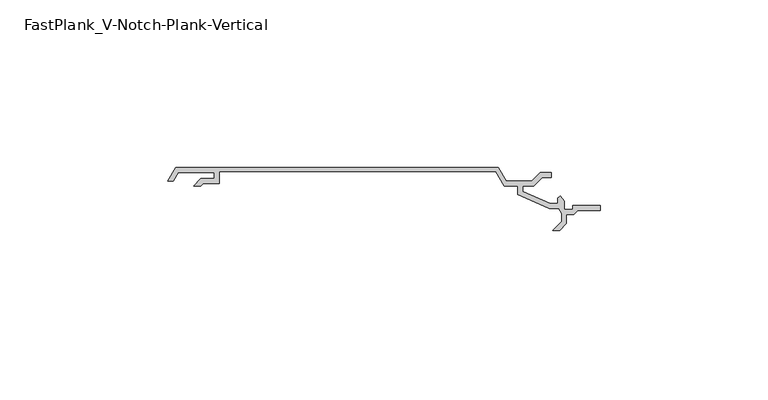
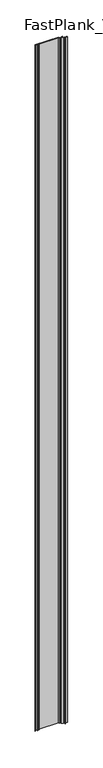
"""IFC4 building model written with IfcOpenShell, lengths in millimetres: plate geometry, FastPlank_V-Notch-Plank-Vertical : P44V-V-Notch-4″-Plank-Vertical."""

from ifc_helpers import new_model, si_unit, origin, origin_with_axes, place, context, project, spatial, polyline, outline, extrude, source, transform, mapped, element, save


def fastplank_v_notch_plank_vertical_0870f6c9(model_context):
    return source(origin(), model_context, "Body", "SweptSolid", [
        extrude(outline(polyline([(-35.3136961, 14.0246043), (-40.2122888, 14.0246043), (-40.9205995, 13.3162936), (-43.0391501, 13.3162936), (-40.8308424, 15.5246013), (-36.8172419, 15.5246013), (-36.8172419, 17.3745976), (-47.5382205, 17.3745976), (-49.0680062, 14.7246029), (-50.8, 14.7246029), (-48.4042977, 18.8745946), (47.9040846, 18.8745946), (50.3000834, 14.7246029), (57.8147973, 14.7246029), (60.464792, 17.3745976), (63.7726601, 17.3745976), (63.7726601, 15.8746006), (61.0861111, 15.8746006), (58.4361164, 13.2246059), (55.2486482, 13.2246059), (55.2486482, 11.708109), (63.4522203, 8.0338609), (65.6558186, 8.0338609), (65.6558186, 9.7191932), (66.4227937, 10.3184198), (67.5909783, 8.8232117), (67.5909783, 6.2821578), (70.0578751, 6.2821578), (70.0578751, 7.5321553), (78.3909904, 7.5321553), (78.3909904, 6.0321583), (71.5427309, 6.0321583), (70.4437723, 4.7821608), (68.1150861, 4.7821608), (68.1150861, 2.1334241), (66.2394467, 0.0), (64.1213563, 0.0), (66.8150887, 2.6937325), (66.8150887, 5.0811989), (65.9763922, 6.5338639), (63.1609184, 6.5338639), (53.7739676, 10.7243127), (53.7739676, 13.2246059), (49.6649994, 13.2246059), (47.1535307, 17.5745972), (-35.3136961, 17.5745972), (-35.3136961, 14.0246043)])), origin_with_axes(), (0.0, 0.0, 1.0), 3024.7636711),
    ])


if __name__ == "__main__":
    model = new_model("IFC4")
    model_context = context("Model", 3, world=origin())
    ifc_project = project(units=[si_unit("LENGTHUNIT", "METRE", prefix="MILLI")], contexts=[model_context])
    site = spatial("IfcSite", under=ifc_project)
    building = spatial("IfcBuilding", under=site)
    placement = place(None, origin())
    fastplank_v_notch_plank_vertical_shape = fastplank_v_notch_plank_vertical_0870f6c9(model_context)
    element("IfcPlate", 1, ObjectType="FastPlank_V-Notch-Plank-Vertical : P44V-V-Notch-4″-Plank-Vertical", at=placement, inside=building, context=model_context, shape_type="MappedRepresentation", body=[
        mapped(fastplank_v_notch_plank_vertical_shape, transform((0.0, 0.0, 0.0), x_axis=(1.0, 0.0, 0.0), y_axis=(0.0, 1.0, 0.0), z_axis=(0.0, 0.0, 1.0))),
    ])
    save(model, "model.ifc")
